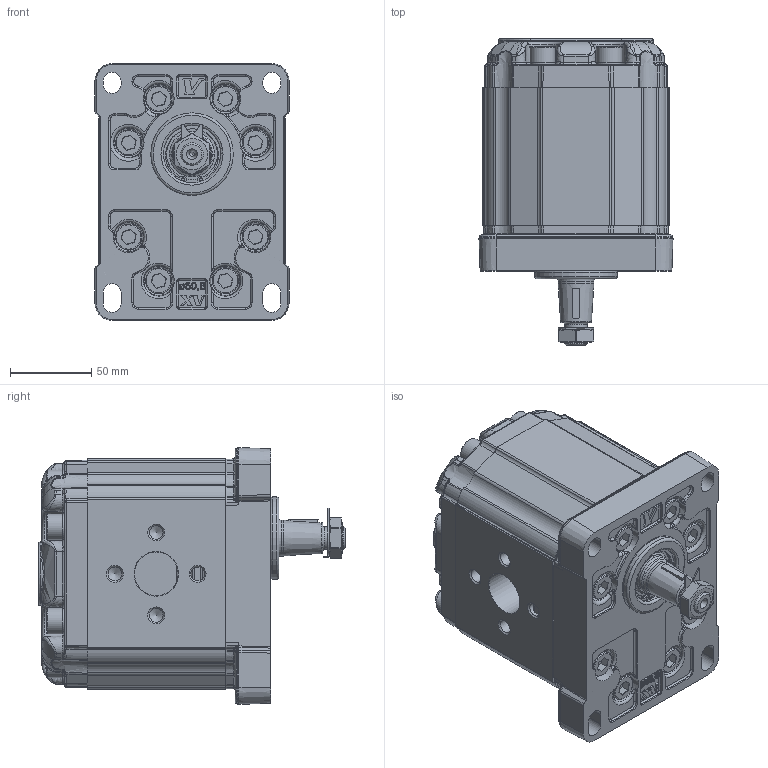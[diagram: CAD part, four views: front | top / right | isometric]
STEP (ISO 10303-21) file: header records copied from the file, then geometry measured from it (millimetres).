
FILE_DESCRIPTION( ( 'Unknown' ), '1' );
FILE_NAME( 'P:/montaggio_easy/output/STP/X3P7802ABBA.stp', 'Unknown', ( 'Unknown' ), ( 'Unknown' ), 'PSStep 14.0', 'Unknown', ' ' );
FILE_SCHEMA( ( 'AUTOMOTIVE_DESIGN { 1 0 10303 214 1 1 1 1 }' ) );
Length unit declared in the file: millimetre
Products named in the file (5): Assem1; X3P02; 3A; X3BBH85; XP301-A
Bounding box: 119.47 x 189 x 158.07 mm (x, y, z)
Surface area: 411986.9 mm2
Topology: 8 solids, 42 shells, 5810 faces, 15094 edges, 9574 vertices
Faces by surface type: bspline 2190, plane 1818, cylinder 1252, torus 218, cone 174, extrusion 96, sphere 56, revolution 4, offset 2
Full cylindrical faces by diameter (mm): 2 x4, 8.376 x16, 10 x32, 14 x4, 15.8 x32, 16 x32, 22 x2, 24.98 x2, 25 x4, 25.968 x2, 27 x4, 28.16 x2, 31.293 x2, 32.742 x2, 34.956 x2, 35 x2, 35.2 x2, 37 x2, 50.8 x2
Entity records: 138924 total; most frequent: CARTESIAN_POINT 58597, ORIENTED_EDGE 14562, EDGE_CURVE 7281, DIRECTION 7277, VERTEX_POINT 4717, B_SPLINE_CURVE_WITH_KNOTS 3871, EDGE_LOOP 3212, FACE_OUTER_BOUND 3015
